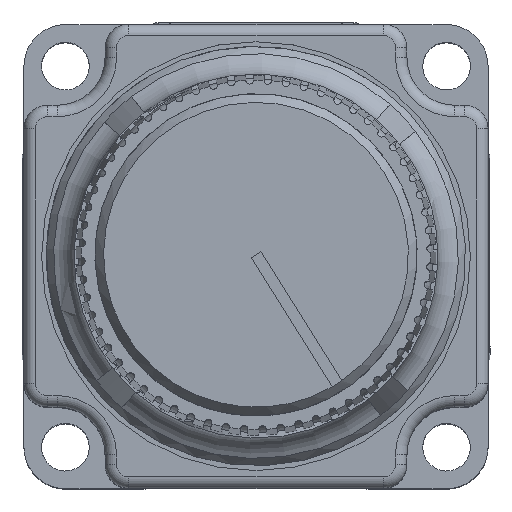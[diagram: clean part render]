
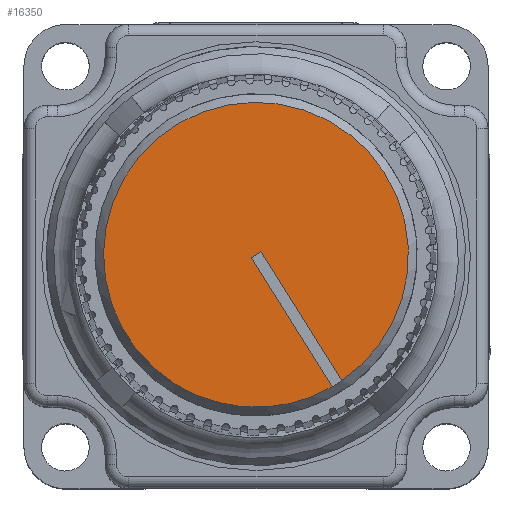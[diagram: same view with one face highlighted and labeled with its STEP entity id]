
A CAD part, top view. The second image highlights one B-rep face of the part: STEP entity #16350.
In plain terms, the highlighted planar face has unit normal (0, 0, 1).
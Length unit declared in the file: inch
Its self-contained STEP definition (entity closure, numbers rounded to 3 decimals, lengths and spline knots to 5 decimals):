
#1350=LINE('',#32223,#2434);
#1355=LINE('',#32242,#2439);
#1358=LINE('',#32247,#2442);
#2434=VECTOR('',#22125,0.3937);
#2439=VECTOR('',#22136,0.3937);
#2442=VECTOR('',#22141,0.3937);
#3796=FACE_OUTER_BOUND('',#4782,.T.);
#4782=EDGE_LOOP('',(#13045,#13046,#13047,#13048,#13049));
#5608=CIRCLE('',#18054,0.4);
#5609=CIRCLE('',#18055,0.4);
#6978=VERTEX_POINT('',#32221);
#6979=VERTEX_POINT('',#32222);
#6982=VERTEX_POINT('',#32235);
#6984=VERTEX_POINT('',#32241);
#6986=VERTEX_POINT('',#32251);
#9045=EDGE_CURVE('',#6978,#6979,#1350,.T.);
#9052=EDGE_CURVE('',#6984,#6982,#1355,.T.);
#9055=EDGE_CURVE('',#6979,#6984,#1358,.T.);
#9057=EDGE_CURVE('',#6982,#6986,#5608,.T.);
#9058=EDGE_CURVE('',#6986,#6978,#5609,.T.);
#13045=ORIENTED_EDGE('',*,*,#9052,.T.);
#13046=ORIENTED_EDGE('',*,*,#9057,.T.);
#13047=ORIENTED_EDGE('',*,*,#9058,.T.);
#13048=ORIENTED_EDGE('',*,*,#9045,.T.);
#13049=ORIENTED_EDGE('',*,*,#9055,.T.);
#14665=PLANE('',#18058);
#16350=ADVANCED_FACE('',(#3796),#14665,.T.);
#18054=AXIS2_PLACEMENT_3D('',#32252,#22147,#22148);
#18055=AXIS2_PLACEMENT_3D('',#32253,#22149,#22150);
#18058=AXIS2_PLACEMENT_3D('',#32259,#22156,#22157);
#22125=DIRECTION('',(-0.532,0.847,0.));
#22136=DIRECTION('',(0.532,-0.847,0.));
#22141=DIRECTION('',(0.847,0.532,0.));
#22147=DIRECTION('center_axis',(0.,0.,1.));
#22148=DIRECTION('ref_axis',(0.847,0.532,0.));
#22149=DIRECTION('center_axis',(0.,0.,1.));
#22150=DIRECTION('ref_axis',(0.847,0.532,0.));
#22156=DIRECTION('center_axis',(0.,0.,1.));
#22157=DIRECTION('ref_axis',(1.,0.,0.));
#32221=CARTESIAN_POINT('',(0.03801,-0.38482,1.8705));
#32222=CARTESIAN_POINT('',(-0.17448,-0.04626,1.8705));
#32223=CARTESIAN_POINT('',(0.03801,-0.38482,1.8705));
#32235=CARTESIAN_POINT('',(0.06342,-0.36887,1.8705));
#32241=CARTESIAN_POINT('',(-0.14907,-0.03031,1.8705));
#32242=CARTESIAN_POINT('',(-0.14907,-0.03031,1.8705));
#32247=CARTESIAN_POINT('',(-0.17448,-0.04626,1.8705));
#32251=CARTESIAN_POINT('',(-0.31393,-0.40821,1.8705));
#32252=CARTESIAN_POINT('Origin',(-0.16178,-0.03828,
1.8705));
#32253=CARTESIAN_POINT('Origin',(-0.16178,-0.03828,
1.8705));
#32259=CARTESIAN_POINT('Origin',(-0.51055,-0.25412,
1.8705));
